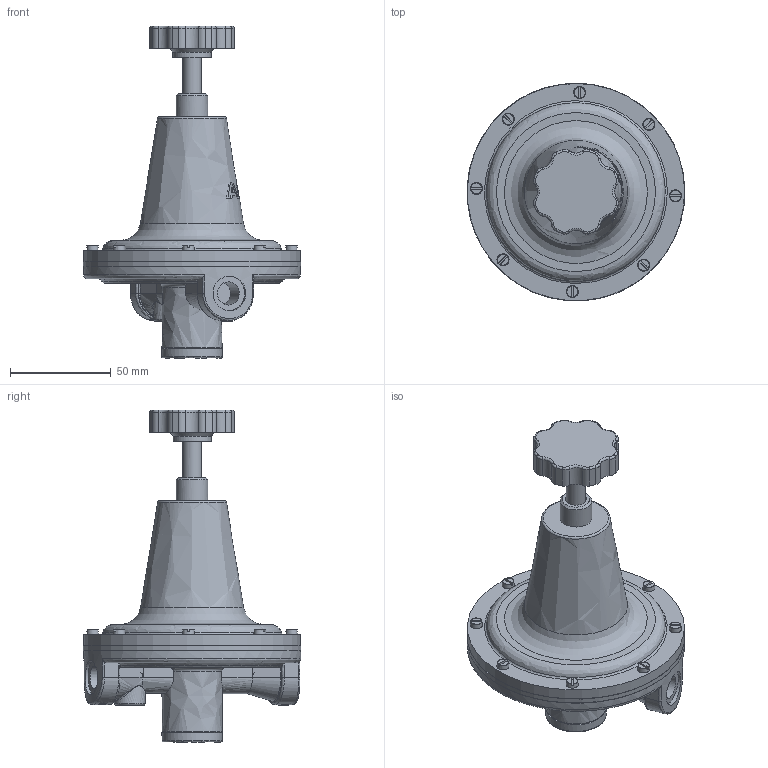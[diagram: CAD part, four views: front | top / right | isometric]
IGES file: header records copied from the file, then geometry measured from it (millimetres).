
Global section: file name: B-R216-02xP; native system: unknown; preprocessor: unknown; author: unknown; organization: unknown; date: 20221114.154738; units: millimetre
Bounding box: 108.25 x 108.23 x 165.1 mm (x, y, z)
Volume: 331589.3 mm3; surface area: 50880.6 mm2
Topology: 11 solids, 13 shells, 438 faces, 1093 edges, 713 vertices
Faces by surface type: bspline 438
